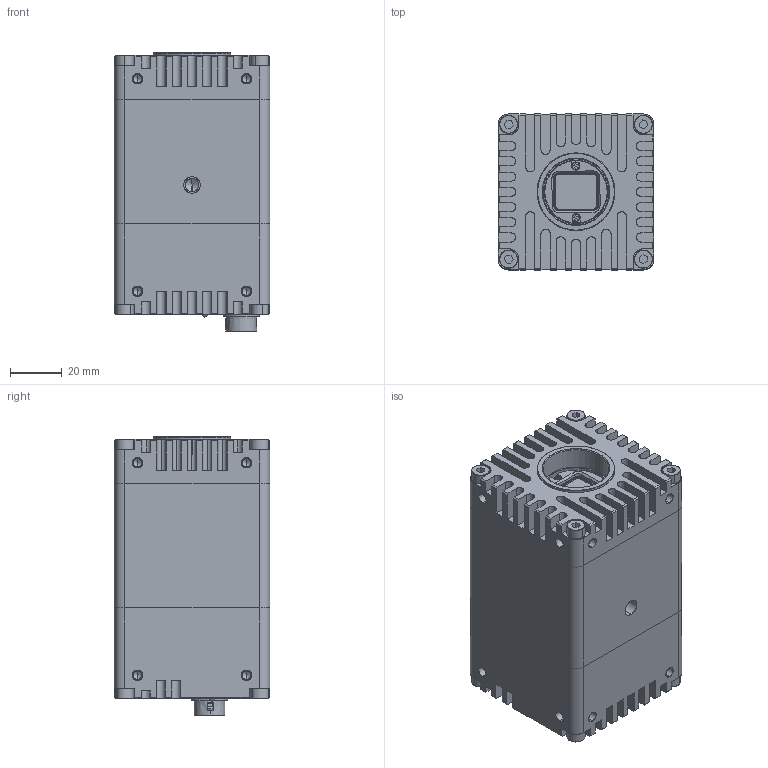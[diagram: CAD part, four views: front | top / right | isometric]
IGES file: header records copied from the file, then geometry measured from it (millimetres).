
Start section: SolidWorks IGES file using analytic representation for surfaces
Global section: file name: P:\engineering\MECH_CAD\mechanical\Documentation\Oryx\ORYX-001-R1.IGS; native system: SolidWorks 2017; preprocessor: SolidWorks 2017; author: CPAN; date: 170629.101134; units: millimetre
Bounding box: 60 x 60 x 107.23 mm (x, y, z)
Surface area: 48531.4 mm2 (no closed solid volume)
Topology: 0 solids, 0 shells, 2073 faces, 17903 edges, 17862 vertices
Faces by surface type: bspline 1585, revolution 488
